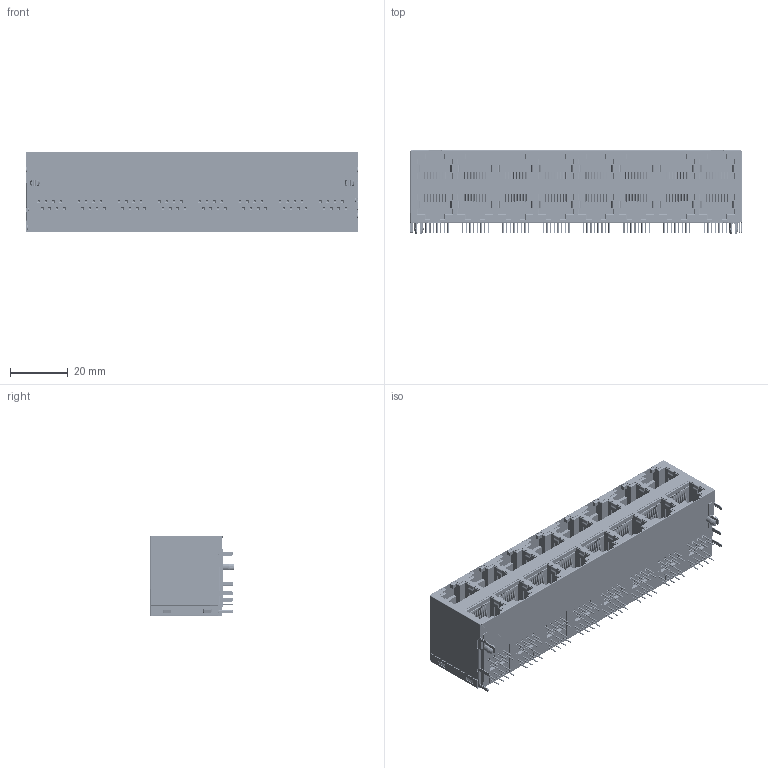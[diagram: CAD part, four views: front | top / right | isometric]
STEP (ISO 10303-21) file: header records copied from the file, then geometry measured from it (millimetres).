
FILE_DESCRIPTION((''),'2;1');
FILE_NAME('DGKYD59212888HWA1D0001_ASM','2022-05-24T16:56:47',('Administrator'),(''),'CREO PARAMETRIC BY PTC INC, 2018400','CREO PARAMETRIC BY PTC INC, 2018400','');
FILE_SCHEMA(('CONFIG_CONTROL_DESIGN'));
Products named in the file (280): SUKE_1_1; GAIBAN_1_1_1; GAIBAN_1_2_1; GAIBAN_1_3_1; GAIBAN_1_4_1; GAIBAN_1_5_1; GAIBAN_1_6_1; GAIBAN_1_7_1; GAIBAN_1_8_1; GAIBAN_1_ASM_1_ASM; ZHEN_1_1_1; ZHEN_1_2_1; ZHEN_1_3_1; ZHEN_1_4_1; ZHEN_1_5_1; ZHEN_1_6_1; ZHEN_1_7_1; ZHEN_1_8_1; ZHEN_1_9_1; ZHEN_1_10_1; ZHEN_1_11_1; ZHEN_1_12_1; ZHEN_1_13_1; ZHEN_1_14_1; ZHEN_1_15_1; ZHEN_1_16_1; ZHEN_1_17_1; ZHEN_1_18_1; ZHEN_1_19_1; ZHEN_1_20_1; ZHEN_1_21_1; ZHEN_1_22_1; ZHEN_1_23_1; ZHEN_1_24_1; ZHEN_1_25_1; ZHEN_1_26_1; ZHEN_1_27_1; ZHEN_1_28_1; ZHEN_1_29_1; ZHEN_1_30_1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
Assembly tree (279 placements, depth 5):
  DGKYD59212888HWA1D0001_ASM
    DGKYD59212888HWA1D0001_ASM_1_ASM
      ASM0004_ASM_1_ASM_1_ASM
        SUKE_1_1
        GAIBAN_1_ASM_1_ASM
          GAIBAN_1_1_1
          GAIBAN_1_2_1
          GAIBAN_1_3_1
          GAIBAN_1_4_1
          GAIBAN_1_5_1
          GAIBAN_1_6_1
          GAIBAN_1_7_1
          GAIBAN_1_8_1
        ZHEN_1_ASM_1_ASM
          ZHEN_1_1_1
          ZHEN_1_2_1
          ZHEN_1_3_1
          ZHEN_1_4_1
          ZHEN_1_5_1
          ZHEN_1_6_1
          ZHEN_1_7_1
          ZHEN_1_8_1
          ZHEN_1_9_1
          ZHEN_1_10_1
          ZHEN_1_11_1
          ZHEN_1_12_1
          ZHEN_1_13_1
          ZHEN_1_14_1
          ZHEN_1_15_1
          ZHEN_1_16_1
          ZHEN_1_17_1
          ZHEN_1_18_1
          ZHEN_1_19_1
          ZHEN_1_20_1
          ZHEN_1_21_1
          ZHEN_1_22_1
          ZHEN_1_23_1
          ZHEN_1_24_1
          ZHEN_1_25_1
          ZHEN_1_26_1
          ZHEN_1_27_1
          ZHEN_1_28_1
          ZHEN_1_29_1
          ZHEN_1_30_1
          ZHEN_1_31_1
          ZHEN_1_32_1
          ZHEN_1_33_1
          ZHEN_1_34_1
          ZHEN_1_35_1
          ZHEN_1_36_1
          ZHEN_1_37_1
          ZHEN_1_38_1
          ZHEN_1_39_1
          ZHEN_1_40_1
          ZHEN_1_41_1
          ZHEN_1_42_1
          ZHEN_1_43_1
          ZHEN_1_44_1
          ZHEN_1_45_1
          ZHEN_1_46_1
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Bounding box: 115.19 x 29.05 x 28 mm (x, y, z)
Volume: 60333.1 mm3; surface area: 55468.2 mm2
Topology: 272 solids, 272 shells, 6482 faces, 16969 edges, 10919 vertices
Faces by surface type: plane 3804, cylinder 2101, torus 553, bspline 16, cone 8
Entity records: 207521 total; most frequent: CARTESIAN_POINT 38108, DIRECTION 35949, ORIENTED_EDGE 33938, EDGE_CURVE 16969, AXIS2_PLACEMENT_3D 12256, VECTOR 11437, LINE 11437, VERTEX_POINT 10919
